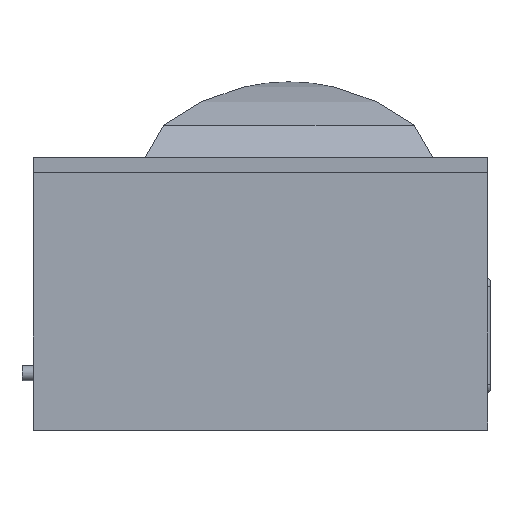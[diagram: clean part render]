
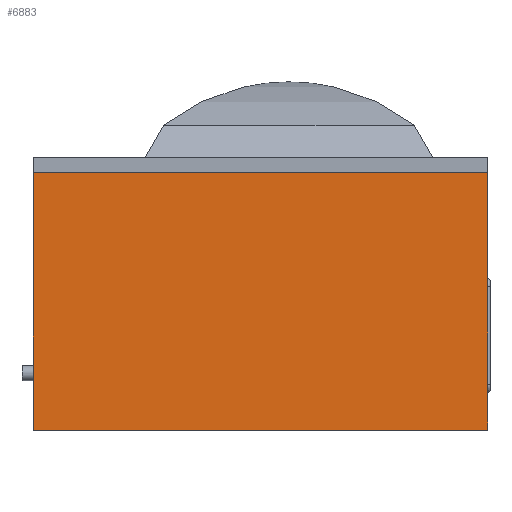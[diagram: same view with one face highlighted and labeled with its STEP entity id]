
A CAD part, left-side view. The second image highlights one B-rep face of the part: STEP entity #6883.
In plain terms, the highlighted planar face has unit normal (-1, 0, 0).
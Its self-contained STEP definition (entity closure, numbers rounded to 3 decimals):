
#133=PLANE('',#7184);
#409=LINE('',#8780,#883);
#515=LINE('',#9811,#989);
#516=LINE('',#9814,#990);
#517=LINE('',#9816,#991);
#518=LINE('',#9818,#992);
#519=LINE('',#9820,#993);
#520=LINE('',#9822,#994);
#521=LINE('',#9823,#995);
#883=VECTOR('',#7580,1000.);
#989=VECTOR('',#7688,1000.);
#990=VECTOR('',#7689,1000.);
#991=VECTOR('',#7690,1000.);
#992=VECTOR('',#7691,1000.);
#993=VECTOR('',#7692,1000.);
#994=VECTOR('',#7693,1000.);
#995=VECTOR('',#7694,1000.);
#1563=ORIENTED_EDGE('',*,*,#2959,.F.);
#1564=ORIENTED_EDGE('',*,*,#2960,.T.);
#1565=ORIENTED_EDGE('',*,*,#2961,.T.);
#1566=ORIENTED_EDGE('',*,*,#2962,.T.);
#1567=ORIENTED_EDGE('',*,*,#2963,.F.);
#1568=ORIENTED_EDGE('',*,*,#2964,.F.);
#1569=ORIENTED_EDGE('',*,*,#2815,.F.);
#1570=ORIENTED_EDGE('',*,*,#2965,.T.);
#2815=EDGE_CURVE('',#3519,#3520,#409,.T.);
#2959=EDGE_CURVE('',#3663,#3664,#515,.T.);
#2960=EDGE_CURVE('',#3663,#3665,#516,.T.);
#2961=EDGE_CURVE('',#3665,#3666,#517,.T.);
#2962=EDGE_CURVE('',#3666,#3667,#518,.T.);
#2963=EDGE_CURVE('',#3668,#3667,#519,.T.);
#2964=EDGE_CURVE('',#3520,#3668,#520,.T.);
#2965=EDGE_CURVE('',#3519,#3664,#521,.T.);
#3519=VERTEX_POINT('',#8779);
#3520=VERTEX_POINT('',#8781);
#3663=VERTEX_POINT('',#9812);
#3664=VERTEX_POINT('',#9813);
#3665=VERTEX_POINT('',#9815);
#3666=VERTEX_POINT('',#9817);
#3667=VERTEX_POINT('',#9819);
#3668=VERTEX_POINT('',#9821);
#4174=EDGE_LOOP('',(#1563,#1564,#1565,#1566,#1567,#1568,#1569,#1570));
#4498=FACE_BOUND('',#4174,.T.);
#6883=ADVANCED_FACE('',(#4498),#133,.T.);
#7184=AXIS2_PLACEMENT_3D('',#9810,#7686,#7687);
#7580=DIRECTION('',(0.,0.,-1.));
#7686=DIRECTION('',(-1.,0.,0.));
#7687=DIRECTION('',(0.,0.,1.));
#7688=DIRECTION('',(0.,0.,-1.));
#7689=DIRECTION('',(0.,1.,0.));
#7690=DIRECTION('',(0.,0.,-1.));
#7691=DIRECTION('',(0.,-1.,0.));
#7692=DIRECTION('',(0.,0.,-1.));
#7693=DIRECTION('',(0.,1.,0.));
#7694=DIRECTION('',(0.,1.,0.));
#8779=CARTESIAN_POINT('',(0.,-0.01,200.));
#8780=CARTESIAN_POINT('',(0.,-0.01,200.));
#8781=CARTESIAN_POINT('',(0.,-0.01,50.));
#9810=CARTESIAN_POINT('',(0.,600.,360.));
#9811=CARTESIAN_POINT('',(0.,0.,360.));
#9812=CARTESIAN_POINT('',(0.,0.,339.999));
#9813=CARTESIAN_POINT('',(0.,0.,200.));
#9814=CARTESIAN_POINT('',(0.,0.,339.999));
#9815=CARTESIAN_POINT('',(0.,600.,339.999));
#9816=CARTESIAN_POINT('',(0.,600.,360.));
#9817=CARTESIAN_POINT('',(0.,600.,0.));
#9818=CARTESIAN_POINT('',(0.,600.,0.));
#9819=CARTESIAN_POINT('',(0.,0.,0.));
#9820=CARTESIAN_POINT('',(0.,0.,360.));
#9821=CARTESIAN_POINT('',(0.,0.,50.));
#9822=CARTESIAN_POINT('',(0.,-0.01,50.));
#9823=CARTESIAN_POINT('',(0.,-0.01,200.));
